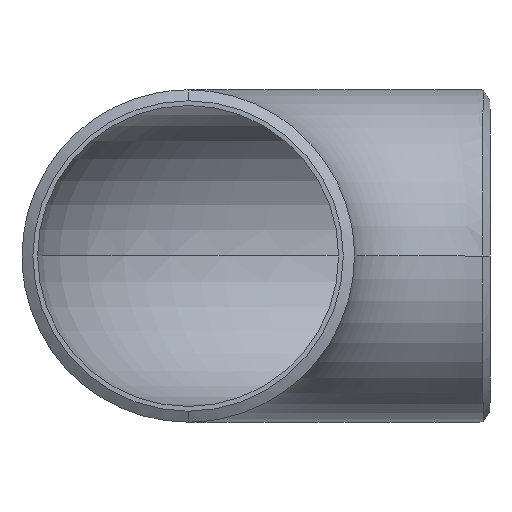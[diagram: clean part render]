
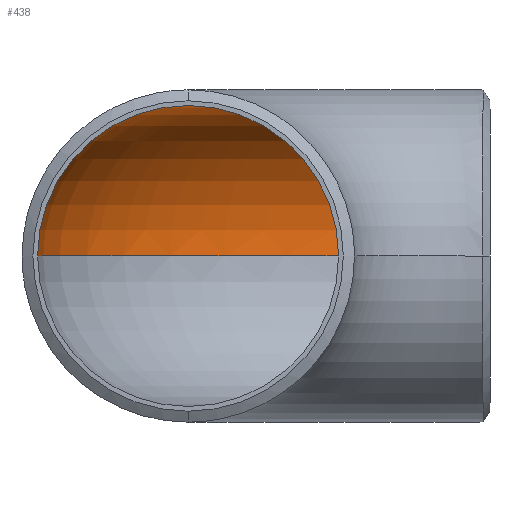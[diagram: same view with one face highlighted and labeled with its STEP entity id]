
A CAD part, front view. The second image highlights one B-rep face of the part: STEP entity #438.
In plain terms, the highlighted toroidal (fillet/blend) face has major radius 127 mm and minor radius 63.3 mm.
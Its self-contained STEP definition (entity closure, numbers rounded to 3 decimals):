
#1 = DIRECTION ( 'NONE',  ( 0., -1., 0. ) ) ;
#12 = EDGE_CURVE ( 'NONE', #398, #581, #544, .T. ) ;
#28 = AXIS2_PLACEMENT_3D ( 'NONE', #465, #416, #45 ) ;
#41 = CARTESIAN_POINT ( 'NONE',  ( 127., 63.7, 0. ) ) ;
#42 = AXIS2_PLACEMENT_3D ( 'NONE', #389, #163, #117 ) ;
#45 = DIRECTION ( 'NONE',  ( -1., 0., 0. ) ) ;
#69 = DIRECTION ( 'NONE',  ( 0., 0., 1. ) ) ;
#93 = ORIENTED_EDGE ( 'NONE', *, *, #304, .F. ) ;
#117 = DIRECTION ( 'NONE',  ( -1., 0., 0. ) ) ;
#139 = AXIS2_PLACEMENT_3D ( 'NONE', #369, #1, #286 ) ;
#150 = EDGE_CURVE ( 'NONE', #312, #398, #199, .T. ) ;
#163 = DIRECTION ( 'NONE',  ( 0., 0., -1. ) ) ;
#164 = CARTESIAN_POINT ( 'NONE',  ( 63.3, 0., 0. ) ) ;
#178 = TOROIDAL_SURFACE ( 'NONE', #516, 127., 63.3 ) ;
#181 = DIRECTION ( 'NONE',  ( 0., 0., -1. ) ) ;
#199 = CIRCLE ( 'NONE', #139, 63.3 ) ;
#217 = EDGE_LOOP ( 'NONE', ( #278, #321, #93, #353 ) ) ;
#277 = FACE_OUTER_BOUND ( 'NONE', #217, .T. ) ;
#278 = ORIENTED_EDGE ( 'NONE', *, *, #150, .T. ) ;
#286 = DIRECTION ( 'NONE',  ( 0., 0., 1. ) ) ;
#304 = EDGE_CURVE ( 'NONE', #474, #581, #432, .T. ) ;
#312 = VERTEX_POINT ( 'NONE', #164 ) ;
#313 = CARTESIAN_POINT ( 'NONE',  ( 127., 0., 0. ) ) ;
#321 = ORIENTED_EDGE ( 'NONE', *, *, #12, .T. ) ;
#325 = DIRECTION ( 'NONE',  ( -1., 0., 0. ) ) ;
#353 = ORIENTED_EDGE ( 'NONE', *, *, #571, .F. ) ;
#369 = CARTESIAN_POINT ( 'NONE',  ( 0., 0., 0. ) ) ;
#389 = CARTESIAN_POINT ( 'NONE',  ( 127., 0., 0. ) ) ;
#398 = VERTEX_POINT ( 'NONE', #508 ) ;
#416 = DIRECTION ( 'NONE',  ( 0., 0., -1. ) ) ;
#432 = CIRCLE ( 'NONE', #462, 63.3 ) ;
#437 = CARTESIAN_POINT ( 'NONE',  ( 127., 190.3, 0. ) ) ;
#438 = ADVANCED_FACE ( 'NONE', ( #277 ), #178, .F. ) ;
#462 = AXIS2_PLACEMENT_3D ( 'NONE', #485, #569, #69 ) ;
#465 = CARTESIAN_POINT ( 'NONE',  ( 127., 0., 0. ) ) ;
#474 = VERTEX_POINT ( 'NONE', #41 ) ;
#485 = CARTESIAN_POINT ( 'NONE',  ( 127., 127., 0. ) ) ;
#508 = CARTESIAN_POINT ( 'NONE',  ( -63.3, 0., 0. ) ) ;
#516 = AXIS2_PLACEMENT_3D ( 'NONE', #313, #181, #325 ) ;
#544 = CIRCLE ( 'NONE', #28, 190.3 ) ;
#569 = DIRECTION ( 'NONE',  ( -1., 0., 0. ) ) ;
#571 = EDGE_CURVE ( 'NONE', #312, #474, #590, .T. ) ;
#581 = VERTEX_POINT ( 'NONE', #437 ) ;
#590 = CIRCLE ( 'NONE', #42, 63.7 ) ;
